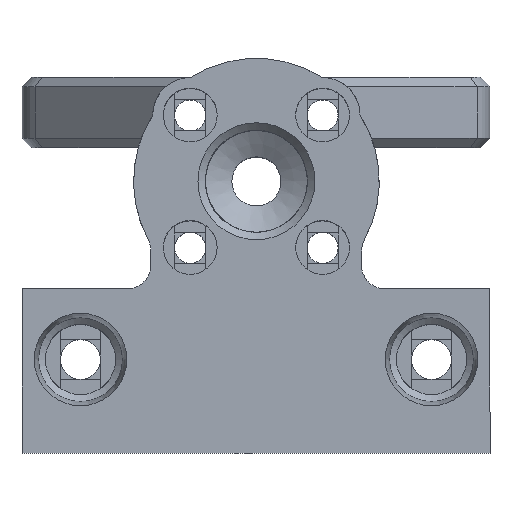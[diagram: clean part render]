
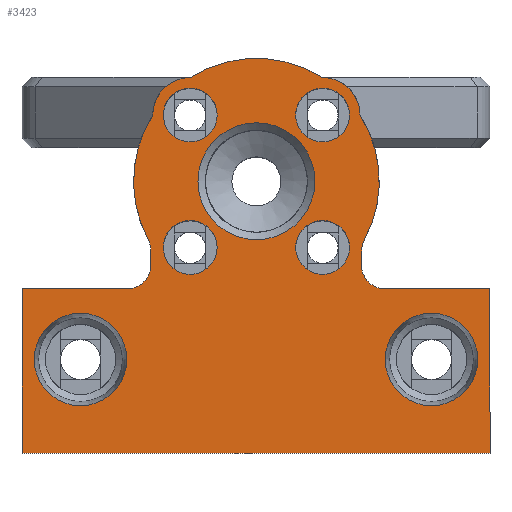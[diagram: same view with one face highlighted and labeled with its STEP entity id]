
A CAD part, top view. The second image highlights one B-rep face of the part: STEP entity #3423.
In plain terms, the highlighted planar face has unit normal (0, 0, 1).
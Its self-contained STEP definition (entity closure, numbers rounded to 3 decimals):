
#38=FACE_BOUND('',#604,.T.);
#39=FACE_BOUND('',#605,.T.);
#40=FACE_BOUND('',#606,.T.);
#41=FACE_BOUND('',#607,.T.);
#42=FACE_BOUND('',#608,.T.);
#43=FACE_BOUND('',#609,.T.);
#44=FACE_BOUND('',#610,.T.);
#216=PLANE('',#3767);
#405=FACE_OUTER_BOUND('',#603,.T.);
#603=EDGE_LOOP('',(#3173,#3174,#3175,#3176,#3177,#3178,#3179,#3180,#3181,
#3182,#3183,#3184,#3185,#3186,#3187,#3188));
#604=EDGE_LOOP('',(#3189));
#605=EDGE_LOOP('',(#3190));
#606=EDGE_LOOP('',(#3191));
#607=EDGE_LOOP('',(#3192));
#608=EDGE_LOOP('',(#3193));
#609=EDGE_LOOP('',(#3194));
#610=EDGE_LOOP('',(#3195));
#622=CIRCLE('',#3493,3.2);
#653=CIRCLE('',#3580,3.952);
#665=CIRCLE('',#3608,3.952);
#671=CIRCLE('',#3619,5.);
#674=CIRCLE('',#3624,2.);
#676=CIRCLE('',#3628,2.);
#678=CIRCLE('',#3632,2.);
#679=CIRCLE('',#3634,10.5);
#682=CIRCLE('',#3638,2.);
#715=CIRCLE('',#3714,2.3);
#722=CIRCLE('',#3731,2.3);
#723=CIRCLE('',#3733,2.3);
#724=CIRCLE('',#3735,2.3);
#731=CIRCLE('',#3749,3.2);
#736=CIRCLE('',#3759,10.5);
#737=CIRCLE('',#3762,10.5);
#949=LINE('',#9422,#1252);
#953=LINE('',#9434,#1256);
#959=LINE('',#9459,#1262);
#1075=LINE('',#9844,#1378);
#1077=LINE('',#9848,#1380);
#1079=LINE('',#9852,#1382);
#1081=LINE('',#9855,#1384);
#1252=VECTOR('',#4318,10.);
#1256=VECTOR('',#4330,10.);
#1262=VECTOR('',#4356,10.);
#1378=VECTOR('',#4720,10.);
#1380=VECTOR('',#4724,10.);
#1382=VECTOR('',#4728,10.);
#1384=VECTOR('',#4732,10.);
#1452=VERTEX_POINT('',#5169);
#1453=VERTEX_POINT('',#5171);
#1531=VERTEX_POINT('',#5438);
#1555=VERTEX_POINT('',#5518);
#1569=VERTEX_POINT('',#9401);
#1573=VERTEX_POINT('',#9412);
#1574=VERTEX_POINT('',#9414);
#1576=VERTEX_POINT('',#9420);
#1578=VERTEX_POINT('',#9426);
#1580=VERTEX_POINT('',#9432);
#1583=VERTEX_POINT('',#9439);
#1584=VERTEX_POINT('',#9441);
#1585=VERTEX_POINT('',#9445);
#1588=VERTEX_POINT('',#9453);
#1589=VERTEX_POINT('',#9455);
#1666=VERTEX_POINT('',#9695);
#1678=VERTEX_POINT('',#9740);
#1679=VERTEX_POINT('',#9744);
#1680=VERTEX_POINT('',#9748);
#1692=VERTEX_POINT('',#9819);
#1696=VERTEX_POINT('',#9843);
#1697=VERTEX_POINT('',#9847);
#1698=VERTEX_POINT('',#9851);
#1796=EDGE_CURVE('',#1452,#1453,#622,.T.);
#1919=EDGE_CURVE('',#1531,#1531,#653,.T.);
#1959=EDGE_CURVE('',#1555,#1555,#665,.T.);
#1986=EDGE_CURVE('',#1569,#1569,#671,.T.);
#1992=EDGE_CURVE('',#1573,#1574,#674,.T.);
#1996=EDGE_CURVE('',#1573,#1576,#949,.T.);
#1999=EDGE_CURVE('',#1578,#1576,#676,.T.);
#2002=EDGE_CURVE('',#1578,#1580,#953,.T.);
#2005=EDGE_CURVE('',#1583,#1584,#678,.T.);
#2008=EDGE_CURVE('',#1583,#1585,#679,.T.);
#2012=EDGE_CURVE('',#1588,#1589,#682,.T.);
#2014=EDGE_CURVE('',#1588,#1584,#959,.T.);
#2132=EDGE_CURVE('',#1666,#1666,#715,.T.);
#2155=EDGE_CURVE('',#1678,#1678,#722,.T.);
#2157=EDGE_CURVE('',#1679,#1679,#723,.T.);
#2159=EDGE_CURVE('',#1680,#1680,#724,.T.);
#2180=EDGE_CURVE('',#1692,#1585,#731,.T.);
#2185=EDGE_CURVE('',#1692,#1453,#736,.T.);
#2190=EDGE_CURVE('',#1452,#1574,#737,.T.);
#2191=EDGE_CURVE('',#1696,#1589,#1075,.T.);
#2193=EDGE_CURVE('',#1697,#1696,#1077,.T.);
#2195=EDGE_CURVE('',#1698,#1697,#1079,.T.);
#2197=EDGE_CURVE('',#1580,#1698,#1081,.T.);
#3173=ORIENTED_EDGE('',*,*,#2190,.T.);
#3174=ORIENTED_EDGE('',*,*,#1992,.F.);
#3175=ORIENTED_EDGE('',*,*,#1996,.T.);
#3176=ORIENTED_EDGE('',*,*,#1999,.F.);
#3177=ORIENTED_EDGE('',*,*,#2002,.T.);
#3178=ORIENTED_EDGE('',*,*,#2197,.T.);
#3179=ORIENTED_EDGE('',*,*,#2195,.T.);
#3180=ORIENTED_EDGE('',*,*,#2193,.T.);
#3181=ORIENTED_EDGE('',*,*,#2191,.T.);
#3182=ORIENTED_EDGE('',*,*,#2012,.F.);
#3183=ORIENTED_EDGE('',*,*,#2014,.T.);
#3184=ORIENTED_EDGE('',*,*,#2005,.F.);
#3185=ORIENTED_EDGE('',*,*,#2008,.T.);
#3186=ORIENTED_EDGE('',*,*,#2180,.F.);
#3187=ORIENTED_EDGE('',*,*,#2185,.T.);
#3188=ORIENTED_EDGE('',*,*,#1796,.F.);
#3189=ORIENTED_EDGE('',*,*,#1919,.T.);
#3190=ORIENTED_EDGE('',*,*,#1959,.T.);
#3191=ORIENTED_EDGE('',*,*,#1986,.T.);
#3192=ORIENTED_EDGE('',*,*,#2155,.T.);
#3193=ORIENTED_EDGE('',*,*,#2157,.T.);
#3194=ORIENTED_EDGE('',*,*,#2159,.T.);
#3195=ORIENTED_EDGE('',*,*,#2132,.T.);
#3423=ADVANCED_FACE('',(#405,#38,#39,#40,#41,#42,#43,#44),#216,.T.);
#3493=AXIS2_PLACEMENT_3D('',#5172,#3938,#3939);
#3580=AXIS2_PLACEMENT_3D('',#5439,#4190,#4191);
#3608=AXIS2_PLACEMENT_3D('',#5519,#4274,#4275);
#3619=AXIS2_PLACEMENT_3D('',#9402,#4298,#4299);
#3624=AXIS2_PLACEMENT_3D('',#9415,#4311,#4312);
#3628=AXIS2_PLACEMENT_3D('',#9428,#4324,#4325);
#3632=AXIS2_PLACEMENT_3D('',#9442,#4336,#4337);
#3634=AXIS2_PLACEMENT_3D('',#9447,#4342,#4343);
#3638=AXIS2_PLACEMENT_3D('',#9456,#4351,#4352);
#3714=AXIS2_PLACEMENT_3D('',#9696,#4590,#4591);
#3731=AXIS2_PLACEMENT_3D('',#9741,#4640,#4641);
#3733=AXIS2_PLACEMENT_3D('',#9745,#4645,#4646);
#3735=AXIS2_PLACEMENT_3D('',#9749,#4650,#4651);
#3749=AXIS2_PLACEMENT_3D('',#9821,#4686,#4687);
#3759=AXIS2_PLACEMENT_3D('',#9831,#4706,#4707);
#3762=AXIS2_PLACEMENT_3D('',#9841,#4716,#4717);
#3767=AXIS2_PLACEMENT_3D('',#9856,#4733,#4734);
#3938=DIRECTION('center_axis',(0.,0.,-1.));
#3939=DIRECTION('ref_axis',(1.,0.,0.));
#4190=DIRECTION('center_axis',(0.,0.,-1.));
#4191=DIRECTION('ref_axis',(-1.,0.,0.));
#4274=DIRECTION('center_axis',(0.,0.,-1.));
#4275=DIRECTION('ref_axis',(1.,0.,0.));
#4298=DIRECTION('center_axis',(0.,0.,-1.));
#4299=DIRECTION('ref_axis',(1.,0.,0.));
#4311=DIRECTION('center_axis',(0.,0.,1.));
#4312=DIRECTION('ref_axis',(0.97,0.242,0.));
#4318=DIRECTION('',(-0.003,-1.,0.));
#4324=DIRECTION('center_axis',(0.,0.,1.));
#4325=DIRECTION('ref_axis',(0.706,-0.708,0.));
#4330=DIRECTION('',(-1.,0.,0.));
#4336=DIRECTION('center_axis',(0.,0.,1.));
#4337=DIRECTION('ref_axis',(-0.969,0.248,0.));
#4342=DIRECTION('center_axis',(0.,0.,1.));
#4343=DIRECTION('ref_axis',(-1.,0.,0.));
#4351=DIRECTION('center_axis',(0.,0.,1.));
#4352=DIRECTION('ref_axis',(-0.708,-0.706,0.));
#4356=DIRECTION('',(0.003,1.,0.));
#4590=DIRECTION('center_axis',(0.,0.,-1.));
#4591=DIRECTION('ref_axis',(1.,0.,0.));
#4640=DIRECTION('center_axis',(0.,0.,-1.));
#4641=DIRECTION('ref_axis',(1.,0.,0.));
#4645=DIRECTION('center_axis',(0.,0.,-1.));
#4646=DIRECTION('ref_axis',(1.,0.,0.));
#4650=DIRECTION('center_axis',(0.,0.,-1.));
#4651=DIRECTION('ref_axis',(1.,0.,0.));
#4686=DIRECTION('center_axis',(0.,0.,-1.));
#4687=DIRECTION('ref_axis',(1.,0.,0.));
#4706=DIRECTION('center_axis',(0.,0.,1.));
#4707=DIRECTION('ref_axis',(-1.,0.,0.));
#4716=DIRECTION('center_axis',(0.,0.,1.));
#4717=DIRECTION('ref_axis',(-1.,0.,0.));
#4720=DIRECTION('',(-1.,0.,0.));
#4724=DIRECTION('',(0.,1.,0.));
#4728=DIRECTION('',(1.,0.,0.));
#4732=DIRECTION('',(0.,-1.,0.));
#4733=DIRECTION('center_axis',(0.,0.,1.));
#4734=DIRECTION('ref_axis',(-1.,0.,0.));
#5169=CARTESIAN_POINT('',(-28.821,-13.66,42.875));
#5171=CARTESIAN_POINT('',(-25.604,-10.443,42.875));
#5172=CARTESIAN_POINT('Origin',(-25.621,-13.643,42.875));
#5438=CARTESIAN_POINT('',(-31.048,-34.533,42.875));
#5439=CARTESIAN_POINT('Origin',(-35.,-34.533,42.875));
#5518=CARTESIAN_POINT('',(-8.952,-34.533,42.875));
#5519=CARTESIAN_POINT('Origin',(-5.,-34.533,42.875));
#9401=CARTESIAN_POINT('',(-24.964,-19.3,42.875));
#9402=CARTESIAN_POINT('Origin',(-19.964,-19.3,42.875));
#9412=CARTESIAN_POINT('',(-28.981,-25.213,42.875));
#9414=CARTESIAN_POINT('',(-29.218,-24.262,42.875));
#9415=CARTESIAN_POINT('Origin',(-30.981,-25.207,42.875));
#9420=CARTESIAN_POINT('',(-28.984,-26.505,42.875));
#9422=CARTESIAN_POINT('',(-28.99,-28.5,42.875));
#9426=CARTESIAN_POINT('',(-30.984,-28.5,42.875));
#9428=CARTESIAN_POINT('Origin',(-30.984,-26.5,42.875));
#9432=CARTESIAN_POINT('',(-40.,-28.5,42.875));
#9434=CARTESIAN_POINT('',(-32.6,-28.5,42.875));
#9439=CARTESIAN_POINT('',(-10.738,-24.313,42.875));
#9441=CARTESIAN_POINT('',(-10.981,-25.262,42.875));
#9442=CARTESIAN_POINT('Origin',(-8.981,-25.267,42.875));
#9445=CARTESIAN_POINT('',(-11.108,-13.66,42.875));
#9447=CARTESIAN_POINT('Origin',(-19.964,-19.3,42.875));
#9453=CARTESIAN_POINT('',(-10.984,-26.495,42.875));
#9455=CARTESIAN_POINT('',(-8.984,-28.5,42.875));
#9456=CARTESIAN_POINT('Origin',(-8.984,-26.5,42.875));
#9459=CARTESIAN_POINT('',(-10.99,-28.5,42.875));
#9695=CARTESIAN_POINT('',(-16.608,-13.643,42.875));
#9696=CARTESIAN_POINT('Origin',(-14.308,-13.643,42.875));
#9740=CARTESIAN_POINT('',(-27.921,-24.957,42.875));
#9741=CARTESIAN_POINT('Origin',(-25.621,-24.957,42.875));
#9744=CARTESIAN_POINT('',(-16.608,-24.957,42.875));
#9745=CARTESIAN_POINT('Origin',(-14.308,-24.957,42.875));
#9748=CARTESIAN_POINT('',(-27.921,-13.643,42.875));
#9749=CARTESIAN_POINT('Origin',(-25.621,-13.643,42.875));
#9819=CARTESIAN_POINT('',(-14.325,-10.443,42.875));
#9821=CARTESIAN_POINT('Origin',(-14.308,-13.643,42.875));
#9831=CARTESIAN_POINT('Origin',(-19.964,-19.3,42.875));
#9841=CARTESIAN_POINT('Origin',(-19.964,-19.3,42.875));
#9843=CARTESIAN_POINT('',(0.,-28.5,42.875));
#9844=CARTESIAN_POINT('',(0.,-28.5,42.875));
#9847=CARTESIAN_POINT('',(0.,-42.533,42.875));
#9848=CARTESIAN_POINT('',(0.,-42.533,42.875));
#9851=CARTESIAN_POINT('',(-40.,-42.533,42.875));
#9852=CARTESIAN_POINT('',(-40.,-42.533,42.875));
#9855=CARTESIAN_POINT('',(-40.,-28.5,42.875));
#9856=CARTESIAN_POINT('Origin',(-20.,-25.667,42.875));
